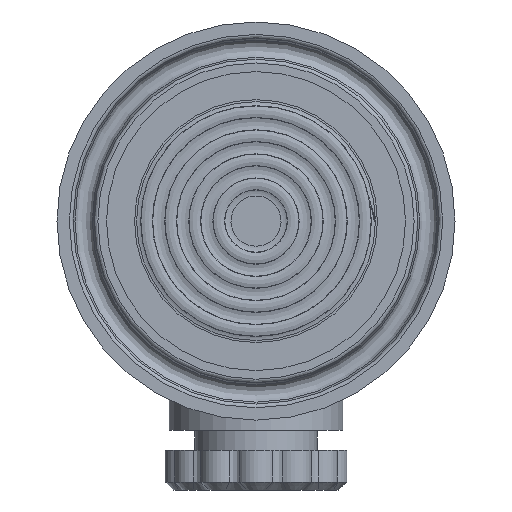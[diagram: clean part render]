
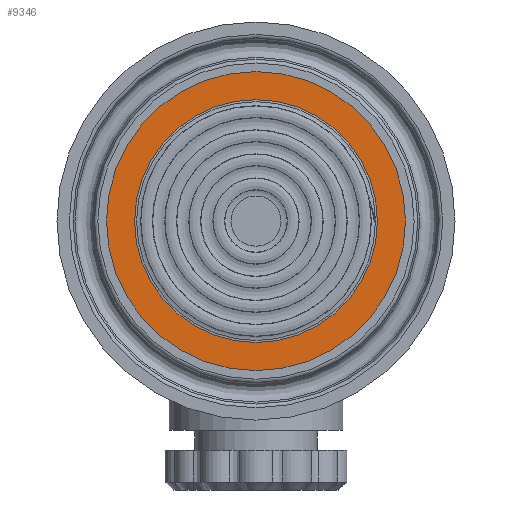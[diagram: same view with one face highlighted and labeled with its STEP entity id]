
A CAD part, front view. The second image highlights one B-rep face of the part: STEP entity #9346.
In plain terms, the highlighted planar face has unit normal (0, -1, 0).
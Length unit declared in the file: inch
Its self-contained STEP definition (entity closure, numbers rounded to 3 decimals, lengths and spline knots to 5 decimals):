
#663=FACE_BOUND('',#2089,.T.);
#903=PLANE('',#10242);
#1519=FACE_OUTER_BOUND('',#2088,.T.);
#2088=EDGE_LOOP('',(#8472));
#2089=EDGE_LOOP('',(#8473));
#3938=CIRCLE('',#10241,0.745);
#3939=CIRCLE('',#10243,0.605);
#4802=VERTEX_POINT('',#23113);
#4803=VERTEX_POINT('',#23117);
#6046=EDGE_CURVE('',#4802,#4802,#3938,.T.);
#6047=EDGE_CURVE('',#4803,#4803,#3939,.T.);
#8472=ORIENTED_EDGE('',*,*,#6046,.F.);
#8473=ORIENTED_EDGE('',*,*,#6047,.T.);
#9346=ADVANCED_FACE('',(#1519,#663),#903,.T.);
#10241=AXIS2_PLACEMENT_3D('',#23115,#12675,#12676);
#10242=AXIS2_PLACEMENT_3D('',#23116,#12677,#12678);
#10243=AXIS2_PLACEMENT_3D('',#23118,#12679,#12680);
#12675=DIRECTION('center_axis',(0.,1.,0.));
#12676=DIRECTION('ref_axis',(1.,0.,0.));
#12677=DIRECTION('center_axis',(0.,-1.,0.));
#12678=DIRECTION('ref_axis',(0.,0.,
-1.));
#12679=DIRECTION('center_axis',(0.,1.,0.));
#12680=DIRECTION('ref_axis',(1.,0.,0.));
#23113=CARTESIAN_POINT('',(2.21807,-4.82442,-1.09653));
#23115=CARTESIAN_POINT('Origin',(2.21807,-4.82442,-0.35153));
#23116=CARTESIAN_POINT('Origin',(2.21807,-4.82442,0.39347));
#23117=CARTESIAN_POINT('',(2.21807,-4.82442,-0.95653));
#23118=CARTESIAN_POINT('Origin',(2.21807,-4.82442,-0.35153));
